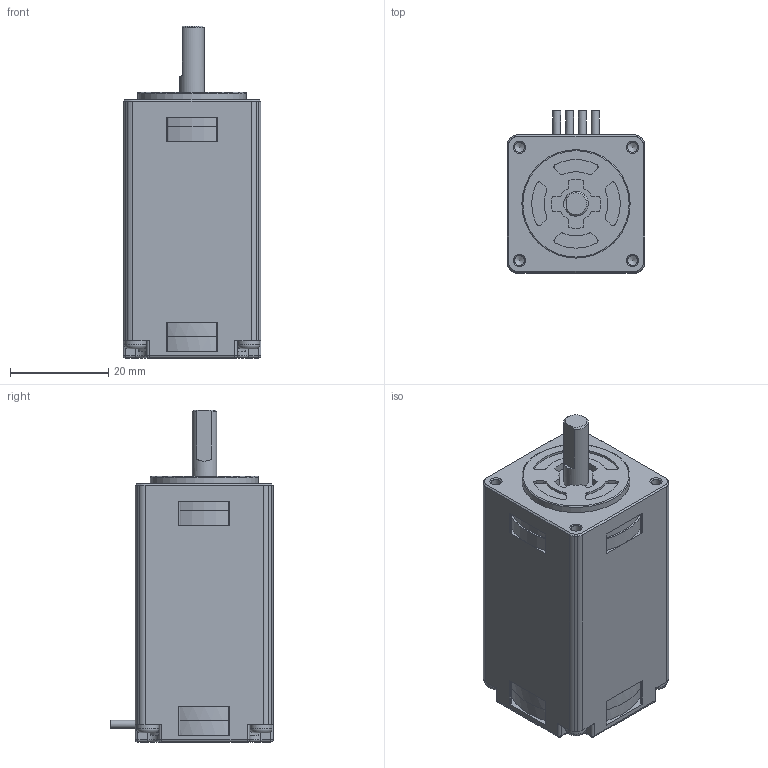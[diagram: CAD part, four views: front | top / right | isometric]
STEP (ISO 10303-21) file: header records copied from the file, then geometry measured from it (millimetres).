
FILE_DESCRIPTION((''),'2;1');
FILE_NAME('C:\Personal\SH2285-5671.stp','2010-10-06T16:34:02',('Sugita-Atsuko'),(''),'Autodesk Inventor 2010','Autodesk Inventor 2010','');
FILE_SCHEMA(('AUTOMOTIVE_DESIGN { 1 0 10303 214 1 1 1 1 }'));
Length unit declared in the file: millimetre
Products named in the file (1): Part2-1
Bounding box: 28 x 33 x 67.45 mm (x, y, z)
Volume: 40847.3 mm3; surface area: 9220.3 mm2
Topology: 1 solids, 1 shells, 265 faces, 734 edges, 460 vertices
Faces by surface type: cylinder 131, plane 92, cone 13, bspline 12, torus 9, sphere 8
Full cylindrical faces by diameter (mm): 1.6 x4, 4.5 x4, 5 x1, 22 x1, 27.1 x2, 27.9 x2
Entity records: 8505 total; most frequent: CARTESIAN_POINT 1738, DIRECTION 1505, ORIENTED_EDGE 1358, EDGE_CURVE 679, AXIS2_PLACEMENT_3D 579, VERTEX_POINT 440, VECTOR 347, LINE 347
